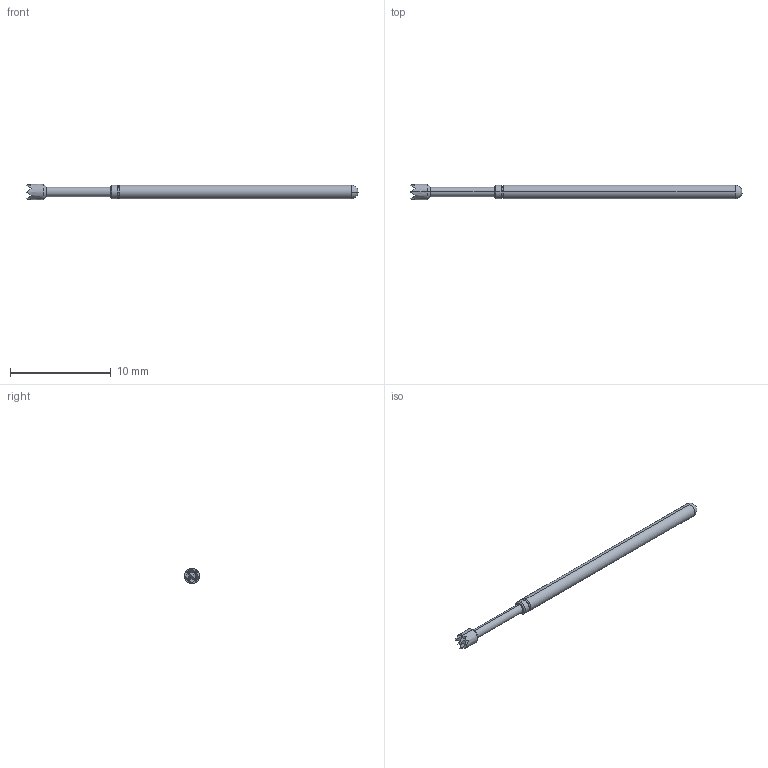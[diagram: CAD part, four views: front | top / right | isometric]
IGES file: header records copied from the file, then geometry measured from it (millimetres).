
Start section: SolidWorks IGES file using analytic representation for surfaces
Global section: file name: Z:\probe solid model mockups\Solidworks models\IGES Files\HCP-25 IGES files\HCP-25H.IGS; native system: SolidWorks 2006 by SolidWorks Corporation; preprocessor: SolidWorks 2006 by SolidWorks Corporation; author: tsakatani; date: 080102.152149; units: inch
Bounding box: 33.02 x 1.52 x 1.52 mm (x, y, z)
Surface area: 137.2 mm2 (no closed solid volume)
Topology: 0 solids, 0 shells, 50 faces, 246 edges, 246 vertices
Faces by surface type: bspline 34, revolution 16
